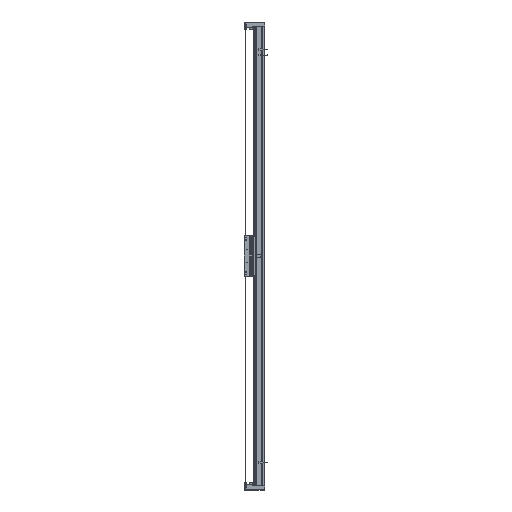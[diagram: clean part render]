
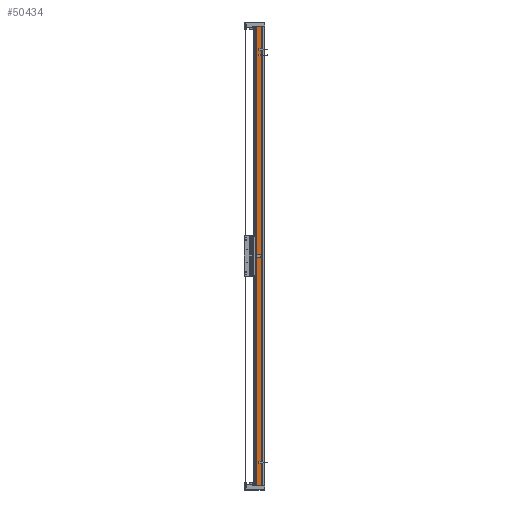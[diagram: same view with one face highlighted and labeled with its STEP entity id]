
A CAD part, left-side view. The second image highlights one B-rep face of the part: STEP entity #50434.
In plain terms, the highlighted planar face has unit normal (-1, 0, 0).
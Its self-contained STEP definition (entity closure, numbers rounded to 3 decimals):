
#3075 = LINE ( 'NONE', #57871, #18111 ) ;
#4757 = LINE ( 'NONE', #41897, #72842 ) ;
#6570 = ORIENTED_EDGE ( 'NONE', *, *, #32142, .F. ) ;
#7278 = VERTEX_POINT ( 'NONE', #78675 ) ;
#8318 = LINE ( 'NONE', #46044, #66007 ) ;
#9519 = DIRECTION ( 'NONE',  ( 0., 1., 0. ) ) ;
#16396 = ORIENTED_EDGE ( 'NONE', *, *, #79360, .T. ) ;
#17339 = ORIENTED_EDGE ( 'NONE', *, *, #50891, .T. ) ;
#18111 = VECTOR ( 'NONE', #48726, 1000. ) ;
#27177 = PLANE ( 'NONE',  #84503 ) ;
#27939 = EDGE_CURVE ( 'NONE', #78513, #65542, #49247, .T. ) ;
#28027 = EDGE_LOOP ( 'NONE', ( #17339, #6570, #78580, #16396 ) ) ;
#30374 = CARTESIAN_POINT ( 'NONE',  ( -82.5, 36.95, 1080. ) ) ;
#32142 = EDGE_CURVE ( 'NONE', #65542, #95695, #3075, .T. ) ;
#37925 = VECTOR ( 'NONE', #86383, 1000. ) ;
#38756 = DIRECTION ( 'NONE',  ( 1., 0., 0. ) ) ;
#41897 = CARTESIAN_POINT ( 'NONE',  ( -82.5, 36.95, -1080. ) ) ;
#45448 = DIRECTION ( 'NONE',  ( 0., 0., -1. ) ) ;
#46044 = CARTESIAN_POINT ( 'NONE',  ( -82.5, 36.95, 1080. ) ) ;
#48726 = DIRECTION ( 'NONE',  ( 0., 0., -1. ) ) ;
#49247 = LINE ( 'NONE', #30374, #37925 ) ;
#50434 = ADVANCED_FACE ( 'NONE', ( #92348 ), #27177, .F. ) ;
#50891 = EDGE_CURVE ( 'NONE', #7278, #95695, #4757, .T. ) ;
#54240 = CARTESIAN_POINT ( 'NONE',  ( -82.5, 14.45, 1080. ) ) ;
#57007 = CARTESIAN_POINT ( 'NONE',  ( -82.5, 36.95, 1080. ) ) ;
#57871 = CARTESIAN_POINT ( 'NONE',  ( -82.5, 14.45, 1080. ) ) ;
#60738 = DIRECTION ( 'NONE',  ( 0., -1., 0. ) ) ;
#65542 = VERTEX_POINT ( 'NONE', #54240 ) ;
#66007 = VECTOR ( 'NONE', #45448, 1000. ) ;
#72842 = VECTOR ( 'NONE', #60738, 1000. ) ;
#78513 = VERTEX_POINT ( 'NONE', #81416 ) ;
#78580 = ORIENTED_EDGE ( 'NONE', *, *, #27939, .F. ) ;
#78675 = CARTESIAN_POINT ( 'NONE',  ( -82.5, 36.95, -1080. ) ) ;
#79360 = EDGE_CURVE ( 'NONE', #78513, #7278, #8318, .T. ) ;
#81416 = CARTESIAN_POINT ( 'NONE',  ( -82.5, 36.95, 1080. ) ) ;
#84503 = AXIS2_PLACEMENT_3D ( 'NONE', #57007, #38756, #9519 ) ;
#86383 = DIRECTION ( 'NONE',  ( 0., -1., 0. ) ) ;
#92348 = FACE_OUTER_BOUND ( 'NONE', #28027, .T. ) ;
#92353 = CARTESIAN_POINT ( 'NONE',  ( -82.5, 14.45, -1080. ) ) ;
#95695 = VERTEX_POINT ( 'NONE', #92353 ) ;
